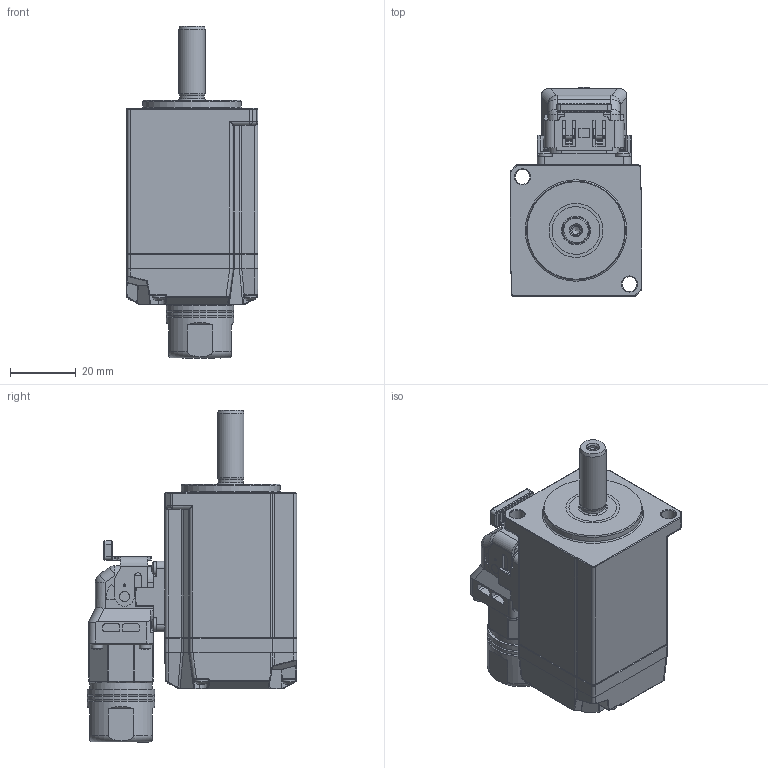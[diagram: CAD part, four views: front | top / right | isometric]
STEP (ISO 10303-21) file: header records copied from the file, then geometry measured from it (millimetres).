
FILE_DESCRIPTION(/* description */ ('-'),/* implementation_level */ '2;1');
FILE_NAME(/* name */ '2026-01-19_AM1011-0x.stp',/* time_stamp */ '2026-01-19T09:49:24+01:00',/* author */ ('LeonardR'),/* organization */ ('FERTIG Motors'),/* preprocessor_version */ 'ST-DEVELOPER v20',/* originating_system */ 'Autodesk Inventor 2025',/* authorisation */ '');
FILE_SCHEMA (('AUTOMOTIVE_DESIGN { 1 0 10303 214 3 1 1 }'));
Products named in the file (4): -; -_1; 20251017_GAMT3031_3D_VM; GAMT3032_3D-20251024
Assembly tree (3 placements, depth 2):
  -
    -_1
    20251017_GAMT3031_3D_VM
    GAMT3032_3D-20251024
Bounding box: 40 x 63.55 x 100.8 mm (x, y, z)
Volume: 112236.6 mm3; surface area: 22555.5 mm2
Topology: 3 solids, 3 shells, 1973 faces, 5188 edges, 3276 vertices
Faces by surface type: plane 1143, cylinder 580, bspline 84, cone 66, torus 50, sphere 50
Full cylindrical faces by diameter (mm): 1.65 x16, 2 x4, 2.2 x4, 2.459 x1, 3 x1, 3.2 x1, 3.5 x4, 4 x8, 4.016 x1, 4.175 x1, 4.5 x2, 7.6 x1, 8 x1, 13.5 x1, 19 x1, 20.5 x3, 30 x1
Entity records: 75289 total; most frequent: CARTESIAN_POINT 24755, ORIENTED_EDGE 10340, DIRECTION 10222, EDGE_CURVE 5170, LINE 3560, VECTOR 3560, AXIS2_PLACEMENT_3D 3331, VERTEX_POINT 3278
